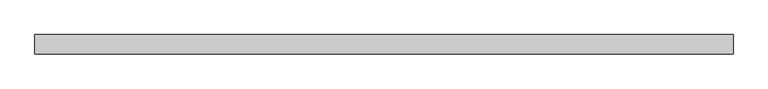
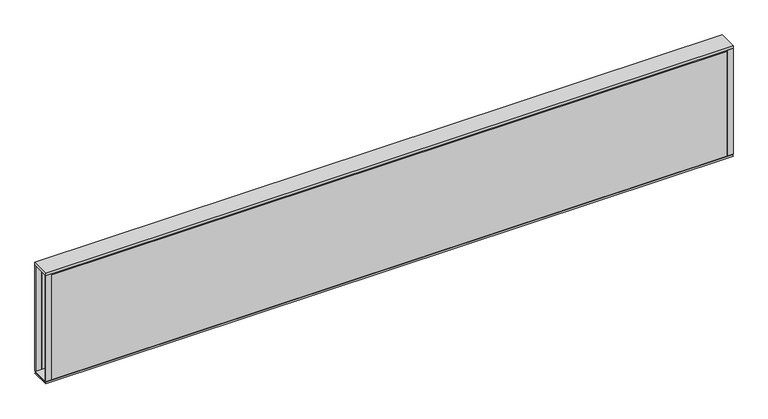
"""IFC4 building model written with IfcOpenShell, lengths in millimetres: furniture geometry, Steelcase - Kick Solutions - Panel - Stacker - Tackable Acoustical : 12H x 72W."""

import ifcopenshell
import ifcopenshell.guid

model = None  # the IFC model being written
_history = None  # IfcOwnerHistory: only IFC2X3 demands one
_inside = {}  # id of a spatial element -> (the spatial element, [elements in it])
_under = {}  # id of a project, library or spatial element -> (it, [spatial elements below it])
_declared = {}  # id of a project -> (the project, [libraries it declares])
_typed = {}  # id of a type object -> (the type object, [elements of that type])
_made_of = {}  # id of a material, layer set ... -> (it, [elements and type objects made of it])


def new_model(schema):
    """Start an empty IFC model of exactly this schema.

    Asked for "IFC4X3", IfcOpenShell would pick the latest addendum, in which some entities
    have other attributes; the version numbers below select the first issue.
    IFC2X3 requires an IfcOwnerHistory on every rooted entity: one is made here for all.
    """
    global model, _history
    if schema == "IFC4X3":
        model = ifcopenshell.file(schema_version=(4, 3, 0, 0))
    else:
        model = ifcopenshell.file(schema=schema)
    _inside.clear()
    _under.clear()
    _declared.clear()
    _typed.clear()
    _made_of.clear()
    _history = None
    if model.schema == "IFC2X3":
        org = make("IfcOrganization", Name="unknown")
        user = make(
            "IfcPersonAndOrganization",
            ThePerson=make("IfcPerson", FamilyName="unknown"),
            TheOrganization=org,
        )
        app = make(
            "IfcApplication",
            ApplicationDeveloper=org,
            Version="unknown",
            ApplicationFullName="unknown",
            ApplicationIdentifier="unknown",
        )
        _history = make(
            "IfcOwnerHistory",
            OwningUser=user,
            OwningApplication=app,
            ChangeAction="ADDED",
            CreationDate=0,
        )
    return model


def make(cls, **values):
    """One entity of the class cls with the attributes given. An attribute that is None is left unset."""
    return model.create_entity(
        cls, **{name: value for name, value in values.items() if value is not None}
    )


def rooted(cls, **values):
    """An entity with a GlobalId (a new one), such as an element, a storey or a relation."""
    return make(cls, GlobalId=ifcopenshell.guid.new(), OwnerHistory=_history, **values)


def si_unit(unit_type, name, prefix=None):
    """IfcSIUnit, for example si_unit("LENGTHUNIT", "METRE", prefix="MILLI")."""
    return make("IfcSIUnit", UnitType=unit_type, Prefix=prefix, Name=name)


def assignment(units):
    """IfcUnitAssignment: the units of a project."""
    return None if units is None else make("IfcUnitAssignment", Units=units)


def point(xyz):
    """IfcCartesianPoint."""
    return None if xyz is None else make("IfcCartesianPoint", Coordinates=xyz)


def direction(xyz):
    """IfcDirection."""
    return None if xyz is None else make("IfcDirection", DirectionRatios=xyz)


def frame(location, z_axis=None, x_axis=None):
    """IfcAxis2Placement3D, a coordinate frame: its origin and axes. An axis left out is left unset."""
    return make(
        "IfcAxis2Placement3D",
        Location=point(location),
        Axis=direction(z_axis),
        RefDirection=direction(x_axis),
    )


def origin():
    """The frame at (0, 0, 0) with its axes left unset."""
    return frame((0.0, 0.0, 0.0))


def place(relative_to, where):
    """IfcLocalPlacement: puts the frame where relative to a parent placement (None: the world)."""
    return make(
        "IfcLocalPlacement", PlacementRelTo=relative_to, RelativePlacement=where
    )


def context(
    kind, dimensions, precision=None, world=None, true_north=None, identifier=None
):
    """IfcGeometricRepresentationContext, for example the 3D "Model" context."""
    return make(
        "IfcGeometricRepresentationContext",
        ContextIdentifier=identifier,
        ContextType=kind,
        CoordinateSpaceDimension=dimensions,
        Precision=precision,
        WorldCoordinateSystem=world,
        TrueNorth=true_north,
    )


def project(units=None, contexts=None):
    """IfcProject with its units and contexts."""
    return rooted(
        "IfcProject",
        Name="project",
        RepresentationContexts=contexts,
        UnitsInContext=assignment(units),
    )


def spatial(cls, under=None, at=None, **own):
    """A site, building, storey or space (cls), placed at a placement, below another one or the project."""
    s = rooted(cls, ObjectPlacement=at, **own)
    if under is not None:
        _under.setdefault(under.id(), (under, []))[1].append(s)
    return s


def polyline(points):
    """IfcPolyline through the points."""
    return make("IfcPolyline", Points=[point(p) for p in points])


def outline(outer, holes=None, kind="AREA"):
    """IfcArbitraryClosedProfileDef: a profile drawn as a closed curve; with holes, ...WithVoids."""
    if holes is None:
        return make("IfcArbitraryClosedProfileDef", ProfileType=kind, OuterCurve=outer)
    return make(
        "IfcArbitraryProfileDefWithVoids",
        ProfileType=kind,
        OuterCurve=outer,
        InnerCurves=holes,
    )


def extrude(swept, where, along, depth):
    """IfcExtrudedAreaSolid: the profile swept, set in the frame where, extruded along a direction by depth."""
    return make(
        "IfcExtrudedAreaSolid",
        SweptArea=swept,
        Position=where,
        ExtrudedDirection=direction(along),
        Depth=depth,
    )


def shape(context_of_items, identifier, shape_type, items):
    """IfcShapeRepresentation: the items that make up one representation, for example the "Body"."""
    return make(
        "IfcShapeRepresentation",
        ContextOfItems=context_of_items,
        RepresentationIdentifier=identifier,
        RepresentationType=shape_type,
        Items=items,
    )


def source(mapping_origin, context_of_items, identifier, shape_type, items):
    """IfcRepresentationMap: a shape defined once, which mapped items show again and again."""
    return make(
        "IfcRepresentationMap",
        MappingOrigin=mapping_origin,
        MappedRepresentation=shape(context_of_items, identifier, shape_type, items),
    )


def transform(
    local_origin,
    x_axis=None,
    y_axis=None,
    z_axis=None,
    scale=None,
    scale2=None,
    scale3=None,
    uniform=True,
):
    """IfcCartesianTransformationOperator3D, or its non-uniform kind. x_axis, y_axis, z_axis: its Axis1, 2, 3."""
    if uniform:
        return make(
            "IfcCartesianTransformationOperator3D",
            Axis1=direction(x_axis),
            Axis2=direction(y_axis),
            LocalOrigin=point(local_origin),
            Scale=scale,
            Axis3=direction(z_axis),
        )
    return make(
        "IfcCartesianTransformationOperator3DnonUniform",
        Axis1=direction(x_axis),
        Axis2=direction(y_axis),
        LocalOrigin=point(local_origin),
        Scale=scale,
        Axis3=direction(z_axis),
        Scale2=scale2,
        Scale3=scale3,
    )


def mapped(mapping_source, mapping_target):
    """IfcMappedItem: shows the shape of a source again, moved by a transform."""
    return make(
        "IfcMappedItem", MappingSource=mapping_source, MappingTarget=mapping_target
    )


def made_of(thing, what):
    """Note that an element or type object is made of a material, layer set ...; save() writes the relation."""
    if what is not None:
        _made_of.setdefault(what.id(), (what, []))[1].append(thing)
    return thing


def element(
    cls,
    number,
    at=None,
    inside=None,
    cuts=None,
    type_object=None,
    material=None,
    context=None,
    identifier="Body",
    shape_type=None,
    held_by="IfcProductDefinitionShape",
    body=None,
    shapes=None,
    **own,
):
    """One element of the class cls, such as IfcWall. Its Tag is "e" and its number.

    at: its placement. inside: the storey or other place that contains it. cuts: it is an
    opening in that element (IfcRelVoidsElement). A single representation is given by context,
    identifier, shape_type and body (its items); several are given by shapes. held_by: the class
    of the entity that holds the representations. save() writes the other relations.
    """
    e = rooted(cls, Tag="e%d" % number, ObjectPlacement=at, **own)
    if body is not None:
        shapes = [shape(context, identifier, shape_type, body)]
    if shapes is not None:
        e.Representation = make(held_by, Representations=shapes)
    if inside is not None:
        _inside.setdefault(inside.id(), (inside, []))[1].append(e)
    if cuts is not None:
        rooted(
            "IfcRelVoidsElement", RelatingBuildingElement=cuts, RelatedOpeningElement=e
        )
    if type_object is not None:
        _typed.setdefault(type_object.id(), (type_object, []))[1].append(e)
    return made_of(e, material)


def aggregate(whole, parts):
    """IfcRelAggregates: a whole, such as a stair, and the parts it consists of."""
    return rooted("IfcRelAggregates", RelatingObject=whole, RelatedObjects=parts)


def save(model, path):
    """Write the relations noted so far, then the file.

    IfcRelAggregates (storeys below a building ...), IfcRelContainedInSpatialStructure (elements
    in a storey), IfcRelDefinesByType, IfcRelAssociatesMaterial and IfcRelDeclares: one each for
    every whole, place, type object, material and project.
    """
    for whole, parts in _under.values():
        aggregate(whole, parts)
    for where, things in _inside.values():
        rooted(
            "IfcRelContainedInSpatialStructure",
            RelatedElements=things,
            RelatingStructure=where,
        )
    for kind, things in _typed.values():
        rooted("IfcRelDefinesByType", RelatedObjects=things, RelatingType=kind)
    for what, things in _made_of.values():
        rooted("IfcRelAssociatesMaterial", RelatedObjects=things, RelatingMaterial=what)
    for by, libraries in _declared.values():
        rooted("IfcRelDeclares", RelatingContext=by, RelatedDefinitions=libraries)
    model.write(path)


def furniture_408ea547(model_context):
    return source(origin(), model_context, "Body", "SweptSolid", [
        extrude(outline(polyline([(-50.7995075, 1073.2669139), (-0.000494, 1073.2669139), (-3.1752531, 1070.0921549), (-47.6247484, 1070.0921549), (-50.7995075, 1073.2669139)])), frame((0.0, 0.0, 0.0), z_axis=(1.0, 0.0, 0.0), x_axis=(0.0, 1.0, 0.0)), (0.0, 0.0, 1.0), 1828.8),
        extrude(outline(polyline([(0.0, 1073.2669139), (-3.1750015, 1073.2669139), (-3.1750015, 1371.7169018), (0.0, 1368.6357466), (0.0, 1073.2669139)])), frame((15.8749996, 0.0, 0.0), z_axis=(1.0, 0.0, 0.0), x_axis=(0.0, 1.0, 0.0)), (0.0, 0.0, 1.0), 1797.0500008),
        extrude(outline(polyline([(-50.8000015, 1073.2669139), (-50.8000015, 1368.6357466), (-47.625, 1371.7169018), (-47.625, 1073.2669139), (-50.8000015, 1073.2669139)])), frame((15.8749996, 0.0, 0.0), z_axis=(1.0, 0.0, 0.0), x_axis=(0.0, 1.0, 0.0)), (0.0, 0.0, 1.0), 1797.0500008),
        extrude(outline(polyline([(1828.8, -3.1750015), (1812.9250004, -3.1750015), (1812.9250004, 0.0), (1828.8, 0.0), (1828.8, -3.1750015)])), frame((0.0, 0.0, 1073.2669139), z_axis=(0.0, 0.0, 1.0), x_axis=(1.0, 0.0, 0.0)), (0.0, 0.0, 1.0), 298.4499879),
        extrude(outline(polyline([(15.8749996, -50.8000015), (0.0, -50.8000015), (0.0, -47.625), (15.8749996, -47.625), (15.8749996, -50.8000015)])), frame((0.0, 0.0, 1073.2669139), z_axis=(0.0, 0.0, 1.0), x_axis=(1.0, 0.0, 0.0)), (0.0, 0.0, 1.0), 298.4499879),
        extrude(outline(polyline([(1828.8, 0.0), (1828.8, -50.8000015), (0.0, -50.8000015), (0.0, 0.0), (1828.8, 0.0)])), frame((0.0, 0.0, 1371.7169018), z_axis=(0.0, 0.0, 1.0), x_axis=(1.0, 0.0, 0.0)), (0.0, 0.0, 1.0), 6.35),
        extrude(outline(polyline([(15.8749996, -3.1750015), (0.0, -3.1750015), (0.0, 0.0), (15.8749996, 0.0), (15.8749996, -3.1750015)])), frame((0.0, 0.0, 1073.2669139), z_axis=(0.0, 0.0, 1.0), x_axis=(1.0, 0.0, 0.0)), (0.0, 0.0, 1.0), 298.4499879),
        extrude(outline(polyline([(1828.8, -50.8000015), (1812.9250004, -50.8000015), (1812.9250004, -47.625), (1828.8, -47.625), (1828.8, -50.8000015)])), frame((0.0, 0.0, 1073.2669139), z_axis=(0.0, 0.0, 1.0), x_axis=(1.0, 0.0, 0.0)), (0.0, 0.0, 1.0), 298.4499879),
        extrude(outline(polyline([(-50.8000015, 1066.9169018), (-47.6247484, 1070.0921549), (-3.1752531, 1070.0921549), (0.0, 1066.9169018), (-50.8000015, 1066.9169018)])), frame((0.0, 0.0, 0.0), z_axis=(1.0, 0.0, 0.0), x_axis=(0.0, 1.0, 0.0)), (0.0, 0.0, 1.0), 1828.8),
    ])


if __name__ == "__main__":
    model = new_model("IFC4")
    model_context = context("Model", 3, world=origin())
    ifc_project = project(units=[si_unit("LENGTHUNIT", "METRE", prefix="MILLI")], contexts=[model_context])
    site = spatial("IfcSite", under=ifc_project)
    building = spatial("IfcBuilding", under=site)
    placement = place(None, origin())
    furniture_shape = furniture_408ea547(model_context)
    element("IfcFurniture", 1, ObjectType="Steelcase - Kick Solutions - Panel - Stacker - Tackable Acoustical : 12H x 72W", at=placement, inside=building, context=model_context, shape_type="MappedRepresentation", body=[
        mapped(furniture_shape, transform((0.0, 0.0, 0.0), x_axis=(1.0, 0.0, 0.0), y_axis=(0.0, 1.0, 0.0), z_axis=(0.0, 0.0, 1.0))),
    ])
    save(model, "model.ifc")
